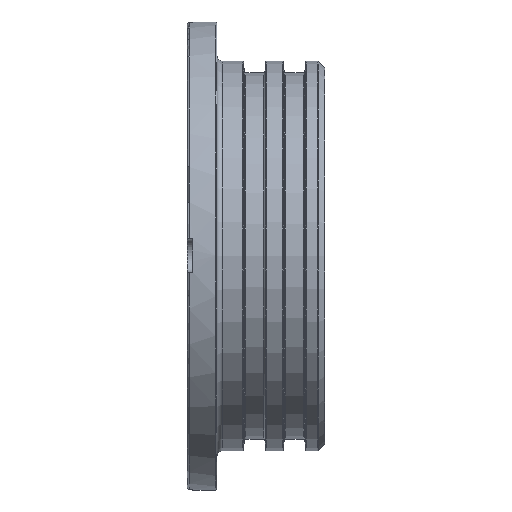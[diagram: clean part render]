
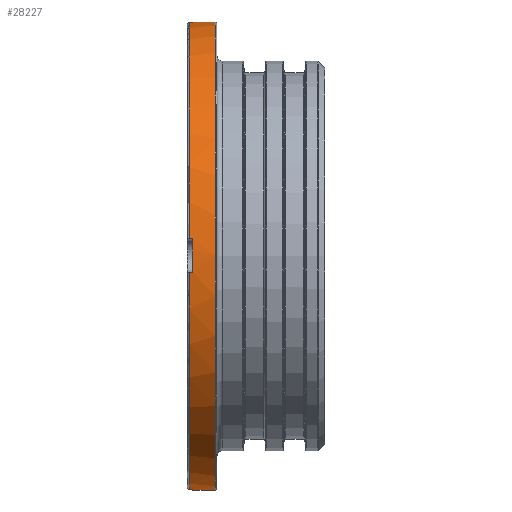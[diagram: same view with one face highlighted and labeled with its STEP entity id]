
A CAD part, top view. The second image highlights one B-rep face of the part: STEP entity #28227.
In plain terms, the highlighted cylindrical face has radius 55.245 mm (diameter 110.49 mm), a partial arc.
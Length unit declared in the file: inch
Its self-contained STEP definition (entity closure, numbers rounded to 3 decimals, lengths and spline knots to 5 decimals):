
#77 = ORIENTED_EDGE ( 'NONE', *, *, #13438, .T. ) ;
#333 = DIRECTION ( 'NONE',  ( 0., 1., 0. ) ) ;
#722 = VERTEX_POINT ( 'NONE', #9375 ) ;
#1223 = CARTESIAN_POINT ( 'NONE',  ( 0.05, 0., 0. ) ) ;
#1505 = CARTESIAN_POINT ( 'NONE',  ( 0.05, -2.16938, 0.15625 ) ) ;
#1745 = EDGE_CURVE ( 'NONE', #26009, #30522, #24186, .T. ) ;
#1771 = DIRECTION ( 'NONE',  ( -1., 0., 0. ) ) ;
#1864 = DIRECTION ( 'NONE',  ( -1., 0., 0. ) ) ;
#2015 = EDGE_LOOP ( 'NONE', ( #2251, #16382, #7764, #9542, #28492, #8347, #77, #3958, #16045, #2118, #28842, #21245 ) ) ;
#2118 = ORIENTED_EDGE ( 'NONE', *, *, #2393, .F. ) ;
#2239 = VECTOR ( 'NONE', #9242, 39.37008 ) ;
#2251 = ORIENTED_EDGE ( 'NONE', *, *, #3053, .F. ) ;
#2366 = CARTESIAN_POINT ( 'NONE',  ( 0.015, 2.16938, 0.15625 ) ) ;
#2393 = EDGE_CURVE ( 'NONE', #722, #21172, #11302, .T. ) ;
#2426 = AXIS2_PLACEMENT_3D ( 'NONE', #5555, #22664, #333 ) ;
#2560 = DIRECTION ( 'NONE',  ( -1., 0., 0. ) ) ;
#2561 = DIRECTION ( 'NONE',  ( -1., 0., 0. ) ) ;
#2716 = EDGE_CURVE ( 'NONE', #722, #4083, #13820, .T. ) ;
#2776 = CARTESIAN_POINT ( 'NONE',  ( 0.05, 0.15625, 2.16938 ) ) ;
#2898 = VERTEX_POINT ( 'NONE', #13818 ) ;
#3053 = EDGE_CURVE ( 'NONE', #29991, #16174, #3174, .T. ) ;
#3174 = CIRCLE ( 'NONE', #27471, 2.175 ) ;
#3470 = VECTOR ( 'NONE', #22024, 39.37008 ) ;
#3534 = DIRECTION ( 'NONE',  ( 1., 0., 0. ) ) ;
#3958 = ORIENTED_EDGE ( 'NONE', *, *, #20618, .F. ) ;
#4020 = CIRCLE ( 'NONE', #21252, 2.175 ) ;
#4083 = VERTEX_POINT ( 'NONE', #11251 ) ;
#4147 = LINE ( 'NONE', #23472, #30860 ) ;
#4561 = CARTESIAN_POINT ( 'NONE',  ( 1.275, 2.175, 0. ) ) ;
#5555 = CARTESIAN_POINT ( 'NONE',  ( 0.26, 0., 0. ) ) ;
#5652 = EDGE_CURVE ( 'NONE', #16174, #4083, #17138, .T. ) ;
#6475 = DIRECTION ( 'NONE',  ( 1., 0., 0. ) ) ;
#6553 = LINE ( 'NONE', #8921, #29762 ) ;
#6982 = VERTEX_POINT ( 'NONE', #2366 ) ;
#7124 = AXIS2_PLACEMENT_3D ( 'NONE', #15681, #6475, #13450 ) ;
#7764 = ORIENTED_EDGE ( 'NONE', *, *, #1745, .T. ) ;
#8347 = ORIENTED_EDGE ( 'NONE', *, *, #29705, .F. ) ;
#8921 = CARTESIAN_POINT ( 'NONE',  ( 1.275, -2.175, 0. ) ) ;
#9136 = CIRCLE ( 'NONE', #7124, 2.175 ) ;
#9242 = DIRECTION ( 'NONE',  ( 1., 0., 0. ) ) ;
#9375 = CARTESIAN_POINT ( 'NONE',  ( 0.015, -0.15625, 2.16938 ) ) ;
#9542 = ORIENTED_EDGE ( 'NONE', *, *, #25584, .F. ) ;
#10025 = CARTESIAN_POINT ( 'NONE',  ( 0.26, 2.175, 0. ) ) ;
#10671 = DIRECTION ( 'NONE',  ( 0., 1., 0. ) ) ;
#11193 = CIRCLE ( 'NONE', #22652, 2.175 ) ;
#11248 = CARTESIAN_POINT ( 'NONE',  ( 0.05, 2.175, 0. ) ) ;
#11251 = CARTESIAN_POINT ( 'NONE',  ( 0.015, -2.16938, 0.15625 ) ) ;
#11302 = LINE ( 'NONE', #26037, #2239 ) ;
#11757 = CARTESIAN_POINT ( 'NONE',  ( 1.275, -2.16938, 0.15625 ) ) ;
#11794 = DIRECTION ( 'NONE',  ( 1., 0., 0. ) ) ;
#12186 = VERTEX_POINT ( 'NONE', #2776 ) ;
#12223 = CARTESIAN_POINT ( 'NONE',  ( 0.05, 0., 0. ) ) ;
#13022 = DIRECTION ( 'NONE',  ( -1., 0., 0. ) ) ;
#13438 = EDGE_CURVE ( 'NONE', #6982, #21333, #9136, .T. ) ;
#13450 = DIRECTION ( 'NONE',  ( 0., -1., 0. ) ) ;
#13818 = CARTESIAN_POINT ( 'NONE',  ( 0.05, 2.16938, 0.15625 ) ) ;
#13820 = CIRCLE ( 'NONE', #30012, 2.175 ) ;
#13855 = CARTESIAN_POINT ( 'NONE',  ( 0.015, 0.15625, 2.16938 ) ) ;
#14144 = VERTEX_POINT ( 'NONE', #11248 ) ;
#15038 = VECTOR ( 'NONE', #24205, 39.37008 ) ;
#15218 = EDGE_CURVE ( 'NONE', #2898, #14144, #11193, .T. ) ;
#15681 = CARTESIAN_POINT ( 'NONE',  ( 0.015, 0., 0. ) ) ;
#15903 = CARTESIAN_POINT ( 'NONE',  ( 1.275, 0., 0. ) ) ;
#15957 = DIRECTION ( 'NONE',  ( 0., 0., -1. ) ) ;
#16045 = ORIENTED_EDGE ( 'NONE', *, *, #20345, .F. ) ;
#16174 = VERTEX_POINT ( 'NONE', #1505 ) ;
#16382 = ORIENTED_EDGE ( 'NONE', *, *, #27022, .T. ) ;
#16680 = DIRECTION ( 'NONE',  ( 0., 0., -1. ) ) ;
#17138 = LINE ( 'NONE', #11757, #25319 ) ;
#17178 = DIRECTION ( 'NONE',  ( 0., -1., 0. ) ) ;
#18605 = CYLINDRICAL_SURFACE ( 'NONE', #31317, 2.175 ) ;
#19826 = LINE ( 'NONE', #24411, #3470 ) ;
#20345 = EDGE_CURVE ( 'NONE', #21172, #12186, #4020, .T. ) ;
#20511 = CARTESIAN_POINT ( 'NONE',  ( 0.05, -0.15625, 2.16938 ) ) ;
#20618 = EDGE_CURVE ( 'NONE', #12186, #21333, #4147, .T. ) ;
#20972 = FACE_OUTER_BOUND ( 'NONE', #2015, .T. ) ;
#21172 = VERTEX_POINT ( 'NONE', #20511 ) ;
#21245 = ORIENTED_EDGE ( 'NONE', *, *, #5652, .F. ) ;
#21252 = AXIS2_PLACEMENT_3D ( 'NONE', #24449, #13022, #27289 ) ;
#21333 = VERTEX_POINT ( 'NONE', #13855 ) ;
#22024 = DIRECTION ( 'NONE',  ( 1., 0., 0. ) ) ;
#22300 = CARTESIAN_POINT ( 'NONE',  ( 0.05, -2.175, 0. ) ) ;
#22652 = AXIS2_PLACEMENT_3D ( 'NONE', #1223, #1864, #15957 ) ;
#22664 = DIRECTION ( 'NONE',  ( -1., 0., 0. ) ) ;
#23472 = CARTESIAN_POINT ( 'NONE',  ( 1.275, 0.15625, 2.16938 ) ) ;
#23503 = DIRECTION ( 'NONE',  ( 1., 0., 0. ) ) ;
#24186 = CIRCLE ( 'NONE', #2426, 2.175 ) ;
#24205 = DIRECTION ( 'NONE',  ( 1., 0., 0. ) ) ;
#24411 = CARTESIAN_POINT ( 'NONE',  ( 1.275, 2.16938, 0.15625 ) ) ;
#24449 = CARTESIAN_POINT ( 'NONE',  ( 0.05, 0., 0. ) ) ;
#25319 = VECTOR ( 'NONE', #2560, 39.37008 ) ;
#25584 = EDGE_CURVE ( 'NONE', #14144, #30522, #31035, .T. ) ;
#26009 = VERTEX_POINT ( 'NONE', #30279 ) ;
#26037 = CARTESIAN_POINT ( 'NONE',  ( 1.275, -0.15625, 2.16938 ) ) ;
#27022 = EDGE_CURVE ( 'NONE', #29991, #26009, #6553, .T. ) ;
#27289 = DIRECTION ( 'NONE',  ( 0., 0., -1. ) ) ;
#27471 = AXIS2_PLACEMENT_3D ( 'NONE', #12223, #2561, #16680 ) ;
#28227 = ADVANCED_FACE ( 'NONE', ( #20972 ), #18605, .T. ) ;
#28492 = ORIENTED_EDGE ( 'NONE', *, *, #15218, .F. ) ;
#28842 = ORIENTED_EDGE ( 'NONE', *, *, #2716, .T. ) ;
#29705 = EDGE_CURVE ( 'NONE', #6982, #2898, #19826, .T. ) ;
#29762 = VECTOR ( 'NONE', #23503, 39.37008 ) ;
#29991 = VERTEX_POINT ( 'NONE', #22300 ) ;
#30012 = AXIS2_PLACEMENT_3D ( 'NONE', #31280, #11794, #17178 ) ;
#30279 = CARTESIAN_POINT ( 'NONE',  ( 0.26, -2.175, 0. ) ) ;
#30522 = VERTEX_POINT ( 'NONE', #10025 ) ;
#30860 = VECTOR ( 'NONE', #1771, 39.37008 ) ;
#31035 = LINE ( 'NONE', #4561, #15038 ) ;
#31280 = CARTESIAN_POINT ( 'NONE',  ( 0.015, 0., 0. ) ) ;
#31317 = AXIS2_PLACEMENT_3D ( 'NONE', #15903, #3534, #10671 ) ;
